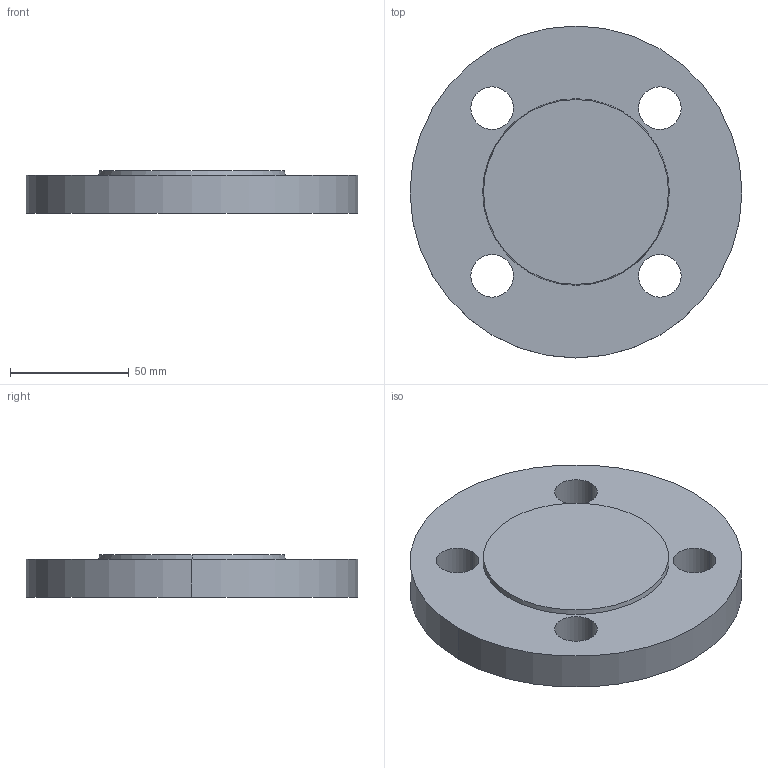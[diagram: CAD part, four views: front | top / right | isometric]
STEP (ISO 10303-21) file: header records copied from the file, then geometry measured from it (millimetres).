
FILE_DESCRIPTION (( 'STEP AP214' ), '1' );
FILE_NAME ('PN40 DN32 Type 05 - Type B Face.STEP', '2018-12-30T00:03:16', ( '' ), ( '' ), 'SwSTEP 2.0', 'SolidWorks 2019', '' );
FILE_SCHEMA (( 'AUTOMOTIVE_DESIGN' ));
Length unit declared in the file: millimetre
Products named in the file (1): PN40 DN32 Type 05 - Type B Face
Bounding box: 140 x 140 x 18 mm (x, y, z)
Volume: 239658.2 mm3; surface area: 39821.2 mm2
Topology: 1 solids, 1 shells, 15 faces, 36 edges, 24 vertices
Faces by surface type: cylinder 10, plane 3, cone 2
Entity records: 504 total; most frequent: DIRECTION 92, CARTESIAN_POINT 76, ORIENTED_EDGE 72, AXIS2_PLACEMENT_3D 40, EDGE_CURVE 36, CIRCLE 24, VERTEX_POINT 24, EDGE_LOOP 24
